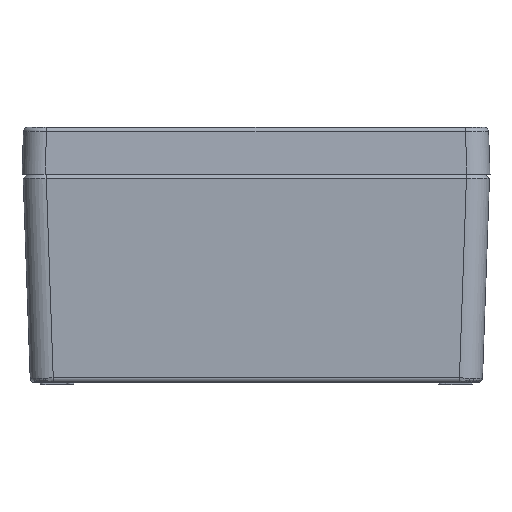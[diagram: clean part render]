
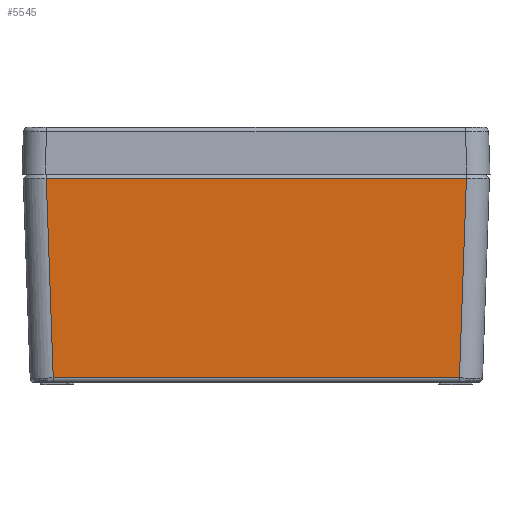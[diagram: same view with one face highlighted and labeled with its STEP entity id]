
A CAD part, left-side view. The second image highlights one B-rep face of the part: STEP entity #5545.
In plain terms, the highlighted planar face has unit normal (-0.999, 0, -0.035).
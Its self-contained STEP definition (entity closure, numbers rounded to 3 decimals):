
#3411 = EDGE_CURVE ( 'NONE', #67169, #30830, #59048, .T. ) ;
#5401 = CARTESIAN_POINT ( 'NONE',  ( -112.928, -87.972, -88.32 ) ) ;
#5545 = ADVANCED_FACE ( 'NONE', ( #89270 ), #27241, .T. ) ;
#6400 = VERTEX_POINT ( 'NONE', #25999 ) ;
#9863 = LINE ( 'NONE', #96964, #41518 ) ;
#14572 = VERTEX_POINT ( 'NONE', #14754 ) ;
#14754 = CARTESIAN_POINT ( 'NONE',  ( -115.945, 90.989, -1.933 ) ) ;
#15096 = EDGE_LOOP ( 'NONE', ( #76689, #31931, #94790, #59332 ) ) ;
#18430 = CARTESIAN_POINT ( 'NONE',  ( -116.142, 109.291, 3.72 ) ) ;
#25999 = CARTESIAN_POINT ( 'NONE',  ( -112.928, 87.972, -88.32 ) ) ;
#27241 = PLANE ( 'NONE',  #85991 ) ;
#30830 = VERTEX_POINT ( 'NONE', #85996 ) ;
#31931 = ORIENTED_EDGE ( 'NONE', *, *, #73308, .F. ) ;
#38098 = EDGE_CURVE ( 'NONE', #14572, #6400, #9863, .T. ) ;
#38477 = CARTESIAN_POINT ( 'NONE',  ( -112.928, 0., -88.32 ) ) ;
#41518 = VECTOR ( 'NONE', #75441, 1000. ) ;
#49806 = DIRECTION ( 'NONE',  ( -0.999, 0., -0.035 ) ) ;
#51696 = DIRECTION ( 'NONE',  ( 0., 1., 0. ) ) ;
#59048 = LINE ( 'NONE', #5401, #78604 ) ;
#59332 = ORIENTED_EDGE ( 'NONE', *, *, #61363, .T. ) ;
#61363 = EDGE_CURVE ( 'NONE', #30830, #14572, #84649, .T. ) ;
#65515 = DIRECTION ( 'NONE',  ( -0.035, 0., 0.999 ) ) ;
#66462 = VECTOR ( 'NONE', #51696, 1000. ) ;
#67169 = VERTEX_POINT ( 'NONE', #89926 ) ;
#67851 = DIRECTION ( 'NONE',  ( -0.035, -0.035, 0.999 ) ) ;
#73206 = CARTESIAN_POINT ( 'NONE',  ( -115.945, 109.291, -1.933 ) ) ;
#73308 = EDGE_CURVE ( 'NONE', #67169, #6400, #85074, .T. ) ;
#75441 = DIRECTION ( 'NONE',  ( 0.035, -0.035, -0.999 ) ) ;
#76689 = ORIENTED_EDGE ( 'NONE', *, *, #38098, .T. ) ;
#78604 = VECTOR ( 'NONE', #67851, 1000. ) ;
#84649 = LINE ( 'NONE', #73206, #66462 ) ;
#85074 = LINE ( 'NONE', #38477, #97292 ) ;
#85991 = AXIS2_PLACEMENT_3D ( 'NONE', #18430, #49806, #65515 ) ;
#85996 = CARTESIAN_POINT ( 'NONE',  ( -115.945, -90.989, -1.933 ) ) ;
#86489 = DIRECTION ( 'NONE',  ( 0., 1., 0. ) ) ;
#89270 = FACE_OUTER_BOUND ( 'NONE', #15096, .T. ) ;
#89926 = CARTESIAN_POINT ( 'NONE',  ( -112.928, -87.972, -88.32 ) ) ;
#94790 = ORIENTED_EDGE ( 'NONE', *, *, #3411, .T. ) ;
#96964 = CARTESIAN_POINT ( 'NONE',  ( -115.945, 90.989, -1.933 ) ) ;
#97292 = VECTOR ( 'NONE', #86489, 1000. ) ;
